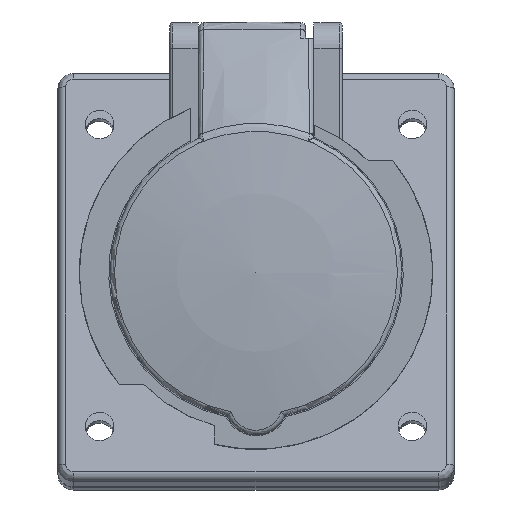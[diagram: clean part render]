
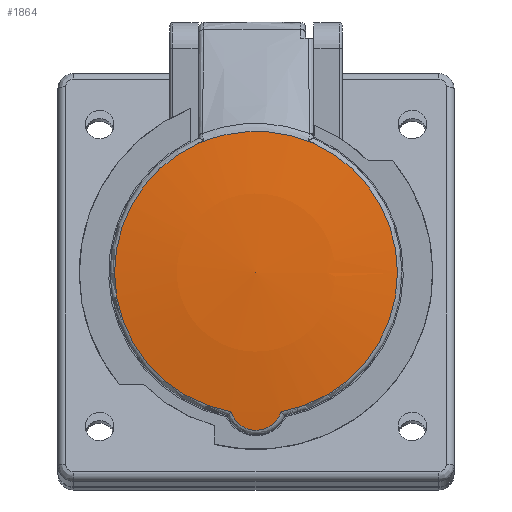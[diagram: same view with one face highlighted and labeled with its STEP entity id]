
A CAD part, top view. The second image highlights one B-rep face of the part: STEP entity #1864.
In plain terms, the highlighted spherical face has radius 197 mm.
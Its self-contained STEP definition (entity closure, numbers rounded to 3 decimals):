
#1444 = VERTEX_POINT('',#1445);
#1445 = CARTESIAN_POINT('',(-11.001,24.792,
    49.124));
#1452 = EDGE_CURVE('',#1453,#1444,#1455,.T.);
#1453 = VERTEX_POINT('',#1454);
#1454 = CARTESIAN_POINT('',(11.001,24.792,
    49.124));
#1455 = B_SPLINE_CURVE_WITH_KNOTS('',3,(#1456,#1457,#1458,#1459,#1460,
    #1461,#1462,#1463,#1464,#1465,#1466,#1467,#1468,#1469,#1470,#1471,
    #1472,#1473,#1474,#1475,#1476,#1477,#1478,#1479,#1480,#1481,#1482,
    #1483,#1484,#1485,#1486,#1487,#1488,#1489,#1490,#1491,#1492,#1493,
    #1494,#1495,#1496,#1497,#1498,#1499,#1500,#1501,#1502,#1503,#1504,
    #1505,#1506,#1507,#1508,#1509,#1510,#1511,#1512,#1513,#1514,#1515,
    #1516,#1517,#1518,#1519,#1520,#1521,#1522,#1523,#1524,#1525,#1526),
  .UNSPECIFIED.,.F.,.F.,(4,2,2,2,2,2,2,2,2,2,2,2,2,2,2,2,2,2,2,2,2,2,2,2
    ,2,2,2,2,1,2,2,2,2,2,2,4),(0.,0.031,0.047,0.055,
    0.063,0.078,0.094,0.125,0.156,0.172,0.188,0.219,
    0.234,0.25,0.313,0.344,0.375,0.5,0.563,0.594,0.609,0.625
    ,0.688,0.719,0.75,0.781,0.797,0.813,0.844,0.859,0.875,
    0.906,0.922,0.93,0.938,1.),.UNSPECIFIED.);
#1456 = CARTESIAN_POINT('',(11.001,24.792,
    49.124));
#1457 = CARTESIAN_POINT('',(10.831,24.868,
    49.124));
#1458 = CARTESIAN_POINT('',(10.64,24.949,
    49.124));
#1459 = CARTESIAN_POINT('',(10.324,25.078,
    49.124));
#1460 = CARTESIAN_POINT('',(10.214,25.122,
    49.125));
#1461 = CARTESIAN_POINT('',(10.041,25.189,
    49.125));
#1462 = CARTESIAN_POINT('',(9.982,25.212,
    49.125));
#1463 = CARTESIAN_POINT('',(9.862,25.257,
    49.125));
#1464 = CARTESIAN_POINT('',(9.762,25.294,
    49.125));
#1465 = CARTESIAN_POINT('',(9.687,25.322,
    49.125));
#1466 = CARTESIAN_POINT('',(9.608,25.351,
    49.126));
#1467 = CARTESIAN_POINT('',(9.395,25.428,
    49.126));
#1468 = CARTESIAN_POINT('',(9.229,25.486,
    49.126));
#1469 = CARTESIAN_POINT('',(8.828,25.623,
    49.127));
#1470 = CARTESIAN_POINT('',(8.657,25.678,
    49.128));
#1471 = CARTESIAN_POINT('',(8.24,25.809,
    49.128));
#1472 = CARTESIAN_POINT('',(8.027,25.875,
    49.129));
#1473 = CARTESIAN_POINT('',(7.699,25.971,
    49.129));
#1474 = CARTESIAN_POINT('',(7.589,26.002,
    49.129));
#1475 = CARTESIAN_POINT('',(7.366,26.065,
    49.129));
#1476 = CARTESIAN_POINT('',(7.221,26.105,
    49.129));
#1477 = CARTESIAN_POINT('',(6.977,26.171,
    49.129));
#1478 = CARTESIAN_POINT('',(6.785,26.222,
    49.129));
#1479 = CARTESIAN_POINT('',(6.455,26.304,
    49.129));
#1480 = CARTESIAN_POINT('',(6.337,26.333,
    49.129));
#1481 = CARTESIAN_POINT('',(6.087,26.392,
    49.129));
#1482 = CARTESIAN_POINT('',(5.924,26.429,
    49.129));
#1483 = CARTESIAN_POINT('',(5.378,26.55,
    49.129));
#1484 = CARTESIAN_POINT('',(4.936,26.637,
    49.129));
#1485 = CARTESIAN_POINT('',(4.264,26.75,
    49.129));
#1486 = CARTESIAN_POINT('',(4.039,26.784,
    49.129));
#1487 = CARTESIAN_POINT('',(3.586,26.849,
    49.129));
#1488 = CARTESIAN_POINT('',(3.396,26.873,
    49.129));
#1489 = CARTESIAN_POINT('',(2.06,27.027,
    49.129));
#1490 = CARTESIAN_POINT('',(1.133,27.069,
    49.129));
#1491 = CARTESIAN_POINT('',(0.043,27.085,
    49.129));
#1492 = CARTESIAN_POINT('',(-0.371,27.085,
    49.129));
#1493 = CARTESIAN_POINT('',(-1.065,27.064,
    49.129));
#1494 = CARTESIAN_POINT('',(-1.309,27.054,
    49.129));
#1495 = CARTESIAN_POINT('',(-1.693,27.032,
    49.129));
#1496 = CARTESIAN_POINT('',(-1.824,27.023,
    49.129));
#1497 = CARTESIAN_POINT('',(-2.092,27.004,
    49.129));
#1498 = CARTESIAN_POINT('',(-2.261,26.991,
    49.129));
#1499 = CARTESIAN_POINT('',(-2.805,26.944,
    49.129));
#1500 = CARTESIAN_POINT('',(-3.262,26.893,
    49.129));
#1501 = CARTESIAN_POINT('',(-3.977,26.793,
    49.129));
#1502 = CARTESIAN_POINT('',(-4.22,26.756,
    49.129));
#1503 = CARTESIAN_POINT('',(-4.717,26.672,
    49.129));
#1504 = CARTESIAN_POINT('',(-4.932,26.634,
    49.129));
#1505 = CARTESIAN_POINT('',(-5.523,26.516,
    49.129));
#1506 = CARTESIAN_POINT('',(-5.791,26.458,
    49.129));
#1507 = CARTESIAN_POINT('',(-6.155,26.375,
    49.129));
#1508 = CARTESIAN_POINT('',(-6.269,26.348,
    49.129));
#1509 = CARTESIAN_POINT('',(-6.485,26.296,
    49.129));
#1510 = CARTESIAN_POINT('',(-6.558,26.278,
    49.129));
#1511 = CARTESIAN_POINT('',(-6.928,26.185,
    49.129));
#1512 = CARTESIAN_POINT('',(-7.295,26.088,
    49.129));
#1513 = CARTESIAN_POINT('',(-7.656,25.985,
    49.129));
#1514 = CARTESIAN_POINT('',(-7.897,25.916,
    49.128));
#1515 = CARTESIAN_POINT('',(-8.048,25.87,
    49.128));
#1516 = CARTESIAN_POINT('',(-8.309,25.791,
    49.128));
#1517 = CARTESIAN_POINT('',(-8.516,25.728,49.127
    ));
#1518 = CARTESIAN_POINT('',(-9.029,25.558,
    49.126));
#1519 = CARTESIAN_POINT('',(-9.174,25.508,
    49.126));
#1520 = CARTESIAN_POINT('',(-9.353,25.445,
    49.126));
#1521 = CARTESIAN_POINT('',(-9.407,25.426,
    49.126));
#1522 = CARTESIAN_POINT('',(-9.501,25.392,
    49.126));
#1523 = CARTESIAN_POINT('',(-9.507,25.39,
    49.126));
#1524 = CARTESIAN_POINT('',(-10.135,25.161,
    49.124));
#1525 = CARTESIAN_POINT('',(-10.609,24.966,
    49.124));
#1526 = CARTESIAN_POINT('',(-11.001,24.792,
    49.124));
#1595 = EDGE_CURVE('',#1453,#1596,#1598,.T.);
#1596 = VERTEX_POINT('',#1597);
#1597 = CARTESIAN_POINT('',(27.138,0.,49.122));
#1598 = CIRCLE('',#1599,27.138);
#1599 = AXIS2_PLACEMENT_3D('',#1600,#1601,#1602);
#1600 = CARTESIAN_POINT('',(0.,0.,49.122));
#1601 = DIRECTION('',(0.,0.,-1.));
#1602 = DIRECTION('',(0.406,0.914,0.));
#1604 = EDGE_CURVE('',#1596,#1605,#1607,.T.);
#1605 = VERTEX_POINT('',#1606);
#1606 = CARTESIAN_POINT('',(4.802,-26.709,
    49.122));
#1607 = CIRCLE('',#1608,27.138);
#1608 = AXIS2_PLACEMENT_3D('',#1609,#1610,#1611);
#1609 = CARTESIAN_POINT('',(0.,0.,49.122));
#1610 = DIRECTION('',(0.,0.,-1.));
#1611 = DIRECTION('',(1.,0.,0.));
#1760 = VERTEX_POINT('',#1761);
#1761 = CARTESIAN_POINT('',(-4.802,-26.709,
    49.122));
#1778 = EDGE_CURVE('',#1760,#1605,#1779,.T.);
#1779 = B_SPLINE_CURVE_WITH_KNOTS('',3,(#1780,#1781,#1782,#1783,#1784,
    #1785,#1786,#1787,#1788,#1789,#1790,#1791,#1792,#1793,#1794),
  .UNSPECIFIED.,.F.,.F.,(4,1,1,1,1,1,1,1,1,1,1,1,4),(0.,
    0.083,0.167,0.25,0.333,0.417
    ,0.5,0.583,0.667,0.75,0.833,
    0.917,1.),.UNSPECIFIED.);
#1780 = CARTESIAN_POINT('',(-4.802,-26.709,
    49.122));
#1781 = CARTESIAN_POINT('',(-4.696,-27.055,
    49.077));
#1782 = CARTESIAN_POINT('',(-4.414,-27.708,
    48.993));
#1783 = CARTESIAN_POINT('',(-3.79,-28.586,
    48.879));
#1784 = CARTESIAN_POINT('',(-2.998,-29.308,
    48.786));
#1785 = CARTESIAN_POINT('',(-2.074,-29.847,
    48.716));
#1786 = CARTESIAN_POINT('',(-1.059,-30.179,
    48.673));
#1787 = CARTESIAN_POINT('',(0.001,-30.291,
    48.658));
#1788 = CARTESIAN_POINT('',(1.061,-30.178,
    48.673));
#1789 = CARTESIAN_POINT('',(2.075,-29.847,
    48.716));
#1790 = CARTESIAN_POINT('',(2.998,-29.308,
    48.786));
#1791 = CARTESIAN_POINT('',(3.79,-28.586,
    48.879));
#1792 = CARTESIAN_POINT('',(4.414,-27.708,
    48.993));
#1793 = CARTESIAN_POINT('',(4.696,-27.055,
    49.077));
#1794 = CARTESIAN_POINT('',(4.802,-26.709,
    49.122));
#1864 = ADVANCED_FACE('',(#1865),#1898,.T.);
#1865 = FACE_BOUND('',#1866,.T.);
#1866 = EDGE_LOOP('',(#1867,#1876,#1877,#1878,#1888,#1889,#1890,#1891));
#1867 = ORIENTED_EDGE('',*,*,#1868,.F.);
#1868 = EDGE_CURVE('',#1760,#1869,#1871,.T.);
#1869 = VERTEX_POINT('',#1870);
#1870 = CARTESIAN_POINT('',(-27.138,0.,49.122));
#1871 = CIRCLE('',#1872,27.138);
#1872 = AXIS2_PLACEMENT_3D('',#1873,#1874,#1875);
#1873 = CARTESIAN_POINT('',(0.,0.,49.122));
#1874 = DIRECTION('',(0.,0.,-1.));
#1875 = DIRECTION('',(-0.177,-0.984,-0.));
#1876 = ORIENTED_EDGE('',*,*,#1778,.T.);
#1877 = ORIENTED_EDGE('',*,*,#1604,.F.);
#1878 = ORIENTED_EDGE('',*,*,#1879,.F.);
#1879 = EDGE_CURVE('',#1880,#1596,#1882,.T.);
#1880 = VERTEX_POINT('',#1881);
#1881 = CARTESIAN_POINT('',(0.,0.,51.));
#1882 = B_SPLINE_CURVE_WITH_KNOTS('',4,(#1883,#1884,#1885,#1886,#1887),
  .UNSPECIFIED.,.F.,.F.,(5,5),(-1.571,-1.433),
  .PIECEWISE_BEZIER_KNOTS.);
#1883 = CARTESIAN_POINT('',(0.,0.,51.)
  );
#1884 = CARTESIAN_POINT('',(6.806,0.,51.));
#1885 = CARTESIAN_POINT('',(13.612,0.,
    50.686));
#1886 = CARTESIAN_POINT('',(20.397,0.,
    50.059));
#1887 = CARTESIAN_POINT('',(27.138,0.,
    49.122));
#1888 = ORIENTED_EDGE('',*,*,#1879,.T.);
#1889 = ORIENTED_EDGE('',*,*,#1595,.F.);
#1890 = ORIENTED_EDGE('',*,*,#1452,.T.);
#1891 = ORIENTED_EDGE('',*,*,#1892,.F.);
#1892 = EDGE_CURVE('',#1869,#1444,#1893,.T.);
#1893 = CIRCLE('',#1894,27.138);
#1894 = AXIS2_PLACEMENT_3D('',#1895,#1896,#1897);
#1895 = CARTESIAN_POINT('',(0.,0.,49.122));
#1896 = DIRECTION('',(0.,0.,-1.));
#1897 = DIRECTION('',(-1.,0.,0.));
#1898 = SPHERICAL_SURFACE('',#1899,197.);
#1899 = AXIS2_PLACEMENT_3D('',#1900,#1901,#1902);
#1900 = CARTESIAN_POINT('',(0.,0.,-146.));
#1901 = DIRECTION('',(0.,0.,-1.));
#1902 = DIRECTION('',(1.,0.,0.));
